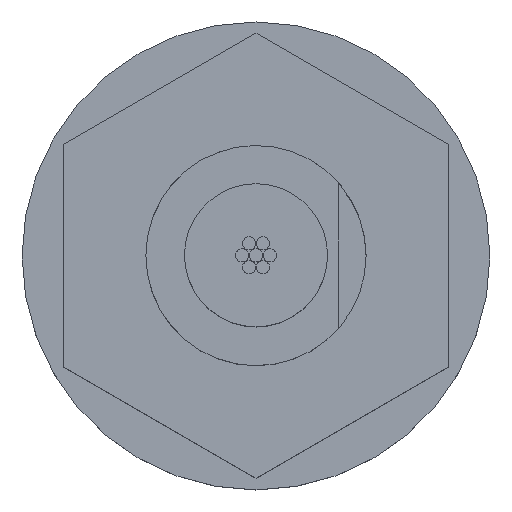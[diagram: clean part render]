
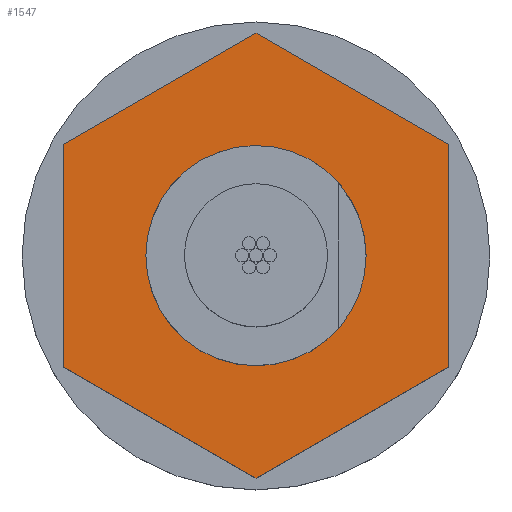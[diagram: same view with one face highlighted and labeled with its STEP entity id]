
A CAD part, top view. The second image highlights one B-rep face of the part: STEP entity #1547.
In plain terms, the highlighted planar face has unit normal (0, 0, 1) as drawn and (-1, 0, 0) by its records, which use the part's own axes.
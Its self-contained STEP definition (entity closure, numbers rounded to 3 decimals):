
#772 = DIRECTION ( 'NONE',  ( 0., -0.5, -0.866 ) ) ;
#773 = VECTOR ( 'NONE', #772, 1000. ) ;
#774 = CARTESIAN_POINT ( 'NONE',  ( 4., 4.041, 0. ) ) ;
#775 = LINE ( 'NONE', #774, #773 ) ;
#776 = CARTESIAN_POINT ( 'NONE',  ( 4., 4.041, 0. ) ) ;
#777 = CARTESIAN_POINT ( 'NONE',  ( 4., 2.021, 3.5 ) ) ;
#778 = DIRECTION ( 'NONE',  ( 0., 0.5, -0.866 ) ) ;
#779 = VECTOR ( 'NONE', #778, 1000. ) ;
#780 = CARTESIAN_POINT ( 'NONE',  ( 4., 2.021, 3.5 ) ) ;
#781 = LINE ( 'NONE', #780, #779 ) ;
#782 = DIRECTION ( 'NONE',  ( 0., -1., 0. ) ) ;
#783 = DIRECTION ( 'NONE',  ( -1., 0., 0. ) ) ;
#784 = CARTESIAN_POINT ( 'NONE',  ( 4., 4.041, 0. ) ) ;
#785 = AXIS2_PLACEMENT_3D ( 'NONE', #784, #783, #782 ) ;
#786 = PLANE ( 'NONE',  #785 ) ;
#787 = FACE_BOUND ( 'NONE', #1617, .T. ) ;
#788 = FACE_OUTER_BOUND ( 'NONE', #1548, .T. ) ;
#813 = CARTESIAN_POINT ( 'NONE',  ( 4., -2., 0. ) ) ;
#814 = CARTESIAN_POINT ( 'NONE',  ( 4., 2., 0. ) ) ;
#815 = DIRECTION ( 'NONE',  ( 0., -1., 0. ) ) ;
#816 = DIRECTION ( 'NONE',  ( -1., 0., 0. ) ) ;
#817 = AXIS2_PLACEMENT_3D ( 'NONE', #823, #816, #815 ) ;
#818 = CIRCLE ( 'NONE', #817, 2. ) ;
#823 = CARTESIAN_POINT ( 'NONE',  ( 4., 0., 0. ) ) ;
#826 = DIRECTION ( 'NONE',  ( 0., -0.5, 0.866 ) ) ;
#827 = VECTOR ( 'NONE', #826, 1000. ) ;
#828 = CARTESIAN_POINT ( 'NONE',  ( 4., -2.021, -3.5 ) ) ;
#829 = LINE ( 'NONE', #828, #827 ) ;
#830 = CARTESIAN_POINT ( 'NONE',  ( 4., -2.021, -3.5 ) ) ;
#831 = DIRECTION ( 'NONE',  ( 0., -1., 0. ) ) ;
#832 = VECTOR ( 'NONE', #831, 1000. ) ;
#833 = CARTESIAN_POINT ( 'NONE',  ( 4., 2.021, -3.5 ) ) ;
#834 = LINE ( 'NONE', #833, #832 ) ;
#835 = CARTESIAN_POINT ( 'NONE',  ( 4., 2.021, -3.5 ) ) ;
#870 = VECTOR ( 'NONE', #935, 1000. ) ;
#871 = CARTESIAN_POINT ( 'NONE',  ( 4., -4.041, 0. ) ) ;
#872 = LINE ( 'NONE', #871, #870 ) ;
#873 = CARTESIAN_POINT ( 'NONE',  ( 4., -4.041, 0. ) ) ;
#925 = DIRECTION ( 'NONE',  ( 0., -1., 0. ) ) ;
#926 = DIRECTION ( 'NONE',  ( -1., 0., 0. ) ) ;
#927 = CARTESIAN_POINT ( 'NONE',  ( 4., 0., 0. ) ) ;
#928 = AXIS2_PLACEMENT_3D ( 'NONE', #927, #926, #925 ) ;
#929 = CIRCLE ( 'NONE', #928, 2. ) ;
#930 = DIRECTION ( 'NONE',  ( 0., 1., 0. ) ) ;
#931 = VECTOR ( 'NONE', #930, 1000. ) ;
#932 = CARTESIAN_POINT ( 'NONE',  ( 4., -2.021, 3.5 ) ) ;
#933 = LINE ( 'NONE', #932, #931 ) ;
#934 = CARTESIAN_POINT ( 'NONE',  ( 4., -2.021, 3.5 ) ) ;
#935 = DIRECTION ( 'NONE',  ( 0., 0.5, 0.866 ) ) ;
#1547 = ADVANCED_FACE ( 'NONE', ( #788, #787 ), #786, .T. ) ;
#1548 = EDGE_LOOP ( 'NONE', ( #1549, #1553, #1556, #1559, #1612, #1615 ) ) ;
#1549 = ORIENTED_EDGE ( 'NONE', *, *, #1550, .T. ) ;
#1550 = EDGE_CURVE ( 'NONE', #1551, #1552, #781, .T. ) ;
#1551 = VERTEX_POINT ( 'NONE', #777 ) ;
#1552 = VERTEX_POINT ( 'NONE', #776 ) ;
#1553 = ORIENTED_EDGE ( 'NONE', *, *, #1554, .T. ) ;
#1554 = EDGE_CURVE ( 'NONE', #1552, #1555, #775, .T. ) ;
#1555 = VERTEX_POINT ( 'NONE', #835 ) ;
#1556 = ORIENTED_EDGE ( 'NONE', *, *, #1557, .T. ) ;
#1557 = EDGE_CURVE ( 'NONE', #1555, #1558, #834, .T. ) ;
#1558 = VERTEX_POINT ( 'NONE', #830 ) ;
#1559 = ORIENTED_EDGE ( 'NONE', *, *, #1560, .T. ) ;
#1560 = EDGE_CURVE ( 'NONE', #1558, #1611, #829, .T. ) ;
#1568 = EDGE_CURVE ( 'NONE', #1569, #1570, #818, .T. ) ;
#1569 = VERTEX_POINT ( 'NONE', #814 ) ;
#1570 = VERTEX_POINT ( 'NONE', #813 ) ;
#1611 = VERTEX_POINT ( 'NONE', #873 ) ;
#1612 = ORIENTED_EDGE ( 'NONE', *, *, #1613, .T. ) ;
#1613 = EDGE_CURVE ( 'NONE', #1611, #1614, #872, .T. ) ;
#1614 = VERTEX_POINT ( 'NONE', #934 ) ;
#1615 = ORIENTED_EDGE ( 'NONE', *, *, #1616, .T. ) ;
#1616 = EDGE_CURVE ( 'NONE', #1614, #1551, #933, .T. ) ;
#1617 = EDGE_LOOP ( 'NONE', ( #1618, #1619 ) ) ;
#1618 = ORIENTED_EDGE ( 'NONE', *, *, #1568, .F. ) ;
#1619 = ORIENTED_EDGE ( 'NONE', *, *, #1620, .F. ) ;
#1620 = EDGE_CURVE ( 'NONE', #1570, #1569, #929, .T. ) ;
